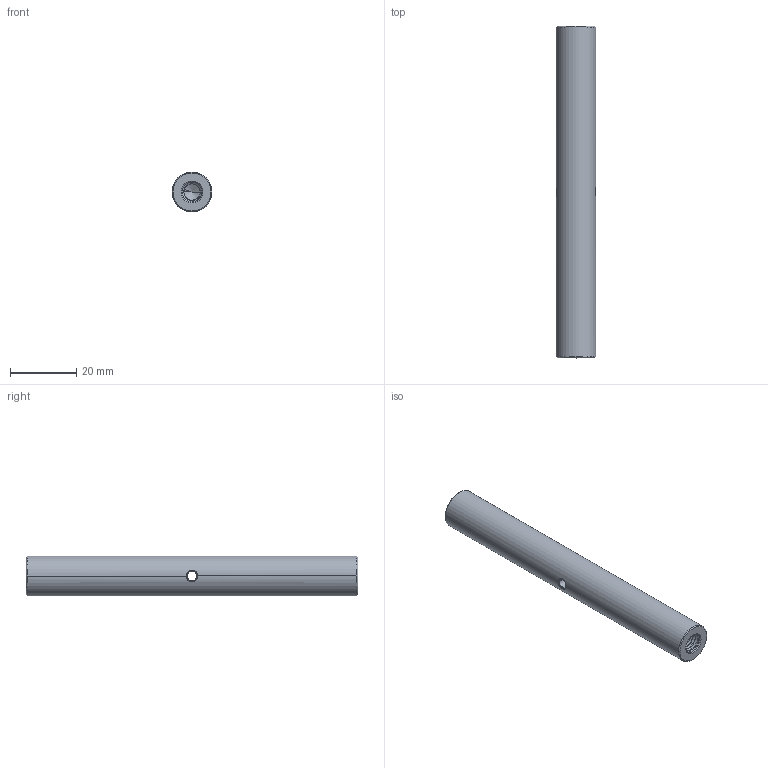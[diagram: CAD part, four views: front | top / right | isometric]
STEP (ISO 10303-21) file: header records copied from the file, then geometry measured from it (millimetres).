
FILE_DESCRIPTION((''),'2;1');
FILE_NAME('PCA10-S1','2020-12-11T',('Administrator'),(''),'CREO PARAMETRIC BY PTC INC, 2015290','CREO PARAMETRIC BY PTC INC, 2015290','');
FILE_SCHEMA(('CONFIG_CONTROL_DESIGN'));
Length unit declared in the file: millimetre
Products named in the file (1): PCA10-S1
Bounding box: 12 x 100 x 12 mm (x, y, z)
Volume: 10915.6 mm3; surface area: 4424.5 mm2
Topology: 1 solids, 1 shells, 76 faces, 203 edges, 125 vertices
Faces by surface type: cylinder 39, bspline 22, cone 12, plane 3
Entity records: 5381 total; most frequent: CARTESIAN_POINT 3736, ORIENTED_EDGE 398, DIRECTION 222, EDGE_CURVE 199, VERTEX_POINT 125, B_SPLINE_CURVE_WITH_KNOTS 105, EDGE_LOOP 78, FACE_OUTER_BOUND 76
